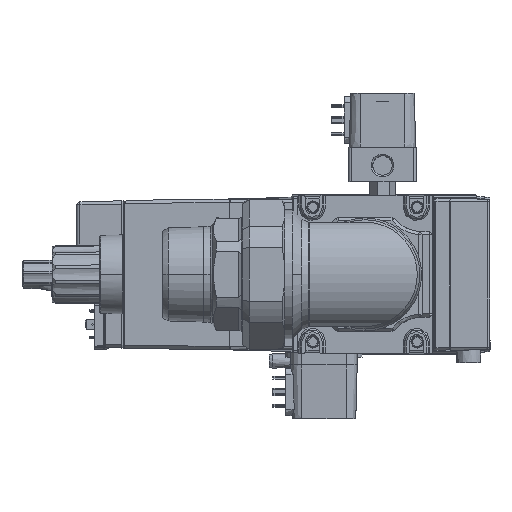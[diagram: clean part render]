
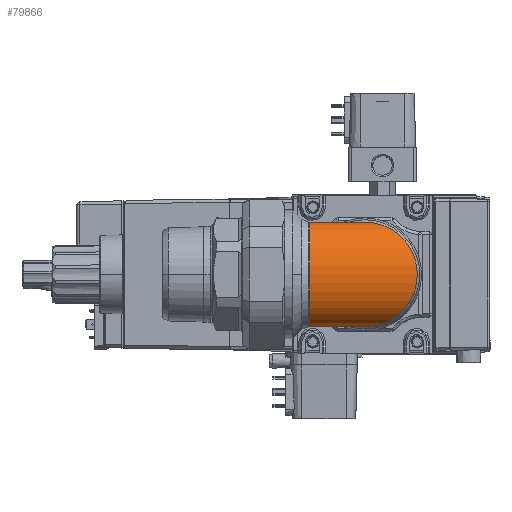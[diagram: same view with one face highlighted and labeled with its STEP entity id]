
A CAD part, left-side view. The second image highlights one B-rep face of the part: STEP entity #79866.
In plain terms, the highlighted toroidal (fillet/blend) face has major radius 35 mm and minor radius 33 mm.
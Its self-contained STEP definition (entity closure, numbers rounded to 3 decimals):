
#4330 = CARTESIAN_POINT ( 'NONE',  ( -329.2, 78., 0. ) ) ;
#5188 = AXIS2_PLACEMENT_3D ( 'NONE', #87942, #127019, #17041 ) ;
#17041 = DIRECTION ( 'NONE',  ( -1., 0., 0. ) ) ;
#18282 = CARTESIAN_POINT ( 'NONE',  ( -294.2, 43., 0. ) ) ;
#18920 = VERTEX_POINT ( 'NONE', #114443 ) ;
#22522 = AXIS2_PLACEMENT_3D ( 'NONE', #58842, #100463, #151688 ) ;
#25844 = TOROIDAL_SURFACE ( 'NONE', #42633, 35., 33. ) ;
#28460 = DIRECTION ( 'NONE',  ( 0., 0., -1. ) ) ;
#39254 = EDGE_CURVE ( 'NONE', #18920, #39480, #61926, .T. ) ;
#39480 = VERTEX_POINT ( 'NONE', #73353 ) ;
#42633 = AXIS2_PLACEMENT_3D ( 'NONE', #79825, #28460, #105906 ) ;
#43755 = CIRCLE ( 'NONE', #157413, 33. ) ;
#47968 = AXIS2_PLACEMENT_3D ( 'NONE', #18282, #149370, #83412 ) ;
#50370 = ORIENTED_EDGE ( 'NONE', *, *, #100800, .T. ) ;
#58257 = FACE_OUTER_BOUND ( 'NONE', #74918, .T. ) ;
#58662 = CIRCLE ( 'NONE', #22522, 33. ) ;
#58842 = CARTESIAN_POINT ( 'NONE',  ( -294.2, 43., 0. ) ) ;
#61926 = CIRCLE ( 'NONE', #47968, 33. ) ;
#67718 = VERTEX_POINT ( 'NONE', #121589 ) ;
#69536 = DIRECTION ( 'NONE',  ( 0., -1., 0. ) ) ;
#73353 = CARTESIAN_POINT ( 'NONE',  ( -294.2, 10., 0. ) ) ;
#74879 = EDGE_CURVE ( 'NONE', #67718, #167949, #127174, .T. ) ;
#74918 = EDGE_LOOP ( 'NONE', ( #112081, #50370 ) ) ;
#79825 = CARTESIAN_POINT ( 'NONE',  ( -294.2, 78., 0. ) ) ;
#79866 = ADVANCED_FACE ( 'NONE', ( #84267, #58257 ), #25844, .T. ) ;
#83412 = DIRECTION ( 'NONE',  ( 0., 1., 0. ) ) ;
#84267 = FACE_OUTER_BOUND ( 'NONE', #131929, .T. ) ;
#87942 = CARTESIAN_POINT ( 'NONE',  ( -329.2, 78., 0. ) ) ;
#88430 = CARTESIAN_POINT ( 'NONE',  ( -296.2, 78., 0. ) ) ;
#100463 = DIRECTION ( 'NONE',  ( -1., 0., 0. ) ) ;
#100800 = EDGE_CURVE ( 'NONE', #167949, #67718, #43755, .T. ) ;
#105906 = DIRECTION ( 'NONE',  ( 0., 1., 0. ) ) ;
#110367 = ORIENTED_EDGE ( 'NONE', *, *, #120030, .T. ) ;
#112081 = ORIENTED_EDGE ( 'NONE', *, *, #74879, .T. ) ;
#114443 = CARTESIAN_POINT ( 'NONE',  ( -294.2, 76., 0. ) ) ;
#120030 = EDGE_CURVE ( 'NONE', #39480, #18920, #58662, .T. ) ;
#121589 = CARTESIAN_POINT ( 'NONE',  ( -362.2, 78., 0. ) ) ;
#122469 = DIRECTION ( 'NONE',  ( -1., 0., 0. ) ) ;
#127019 = DIRECTION ( 'NONE',  ( 0., -1., 0. ) ) ;
#127174 = CIRCLE ( 'NONE', #5188, 33. ) ;
#131929 = EDGE_LOOP ( 'NONE', ( #153284, #110367 ) ) ;
#149370 = DIRECTION ( 'NONE',  ( -1., 0., 0. ) ) ;
#151688 = DIRECTION ( 'NONE',  ( 0., 1., 0. ) ) ;
#153284 = ORIENTED_EDGE ( 'NONE', *, *, #39254, .T. ) ;
#157413 = AXIS2_PLACEMENT_3D ( 'NONE', #4330, #69536, #122469 ) ;
#167949 = VERTEX_POINT ( 'NONE', #88430 ) ;
